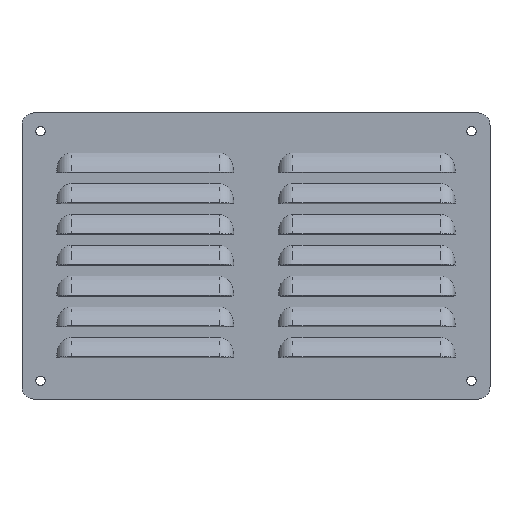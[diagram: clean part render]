
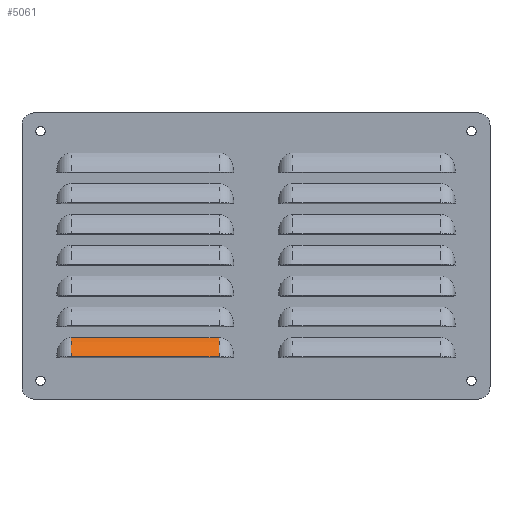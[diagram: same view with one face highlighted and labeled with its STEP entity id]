
A CAD part, top view. The second image highlights one B-rep face of the part: STEP entity #5061.
In plain terms, the highlighted cylindrical face has radius 20.015 mm (diameter 40.03 mm), a partial arc.
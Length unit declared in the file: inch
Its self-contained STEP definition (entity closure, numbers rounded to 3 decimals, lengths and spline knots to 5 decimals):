
#765=DIRECTION('',(1.,0.,0.));
#766=VECTOR('',#765,3.);
#767=CARTESIAN_POINT('',(-3.75,-1.6609,0.));
#768=LINE('',#767,#766);
#1460=CARTESIAN_POINT('',(-3.75,-2.32184,-0.42907));
#1461=DIRECTION('',(-1.,0.,0.));
#1462=DIRECTION('',(0.,0.35,0.937));
#1463=AXIS2_PLACEMENT_3D('',#1460,#1461,#1462);
#1465=CARTESIAN_POINT('',(-3.75,-2.04568,0.30896));
#1525=CARTESIAN_POINT('',(-0.75,-2.32184,-0.42907));
#1526=DIRECTION('',(1.,0.,0.));
#1527=DIRECTION('',(0.,0.839,0.545));
#1528=AXIS2_PLACEMENT_3D('',#1525,#1526,#1527);
#1542=DIRECTION('',(1.,0.,0.));
#1543=VECTOR('',#1542,3.);
#1544=CARTESIAN_POINT('',(-3.75,-2.04568,0.30896));
#1545=LINE('',#1544,#1543);
#3724=VERTEX_POINT('',#1465);
#3726=CARTESIAN_POINT('',(-0.75,-2.04568,0.30896));
#3727=VERTEX_POINT('',#3726);
#3737=CARTESIAN_POINT('',(-3.75,-1.6609,0.));
#3738=CARTESIAN_POINT('',(-0.75,-1.6609,0.));
#3739=VERTEX_POINT('',#3737);
#3740=VERTEX_POINT('',#3738);
#5048=CARTESIAN_POINT('',(-0.25,-2.32184,-0.42907));
#5049=DIRECTION('',(1.,0.,0.));
#5050=DIRECTION('',(0.,1.,0.));
#5051=AXIS2_PLACEMENT_3D('',#5048,#5049,#5050);
#5052=CYLINDRICAL_SURFACE('',#5051,0.788);
#5053=ORIENTED_EDGE('',*,*,#4522,.T.);
#5055=ORIENTED_EDGE('',*,*,#5054,.T.);
#5057=ORIENTED_EDGE('',*,*,#5056,.F.);
#5058=ORIENTED_EDGE('',*,*,#5040,.T.);
#5059=EDGE_LOOP('',(#5053,#5055,#5057,#5058));
#5060=FACE_OUTER_BOUND('',#5059,.F.);
#1464=CIRCLE('',#1463,0.788);
#1529=CIRCLE('',#1528,0.788);
#4522=EDGE_CURVE('',#3739,#3740,#768,.T.);
#5040=EDGE_CURVE('',#3724,#3739,#1464,.T.);
#5054=EDGE_CURVE('',#3740,#3727,#1529,.T.);
#5056=EDGE_CURVE('',#3724,#3727,#1545,.T.);
#5061=ADVANCED_FACE('',(#5060),#5052,.T.);
